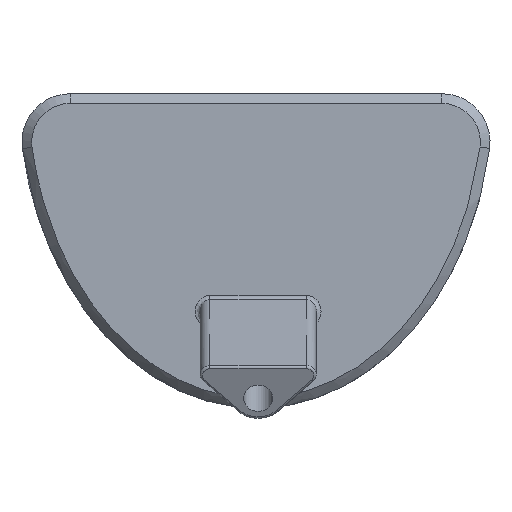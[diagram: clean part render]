
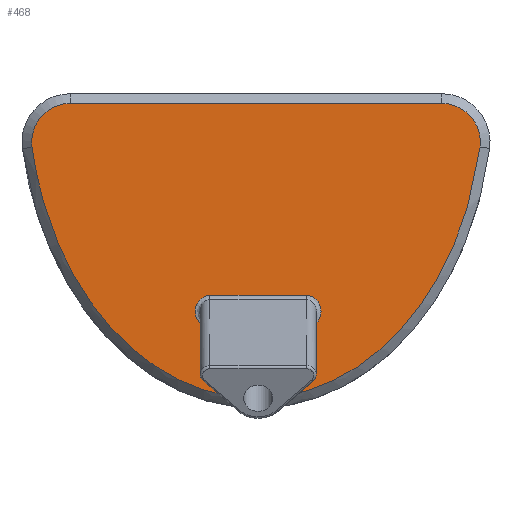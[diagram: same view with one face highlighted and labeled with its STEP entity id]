
A CAD part, front view. The second image highlights one B-rep face of the part: STEP entity #468.
In plain terms, the highlighted planar face has unit normal (0, -1, 0).
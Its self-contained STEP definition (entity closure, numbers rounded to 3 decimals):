
#19=FACE_BOUND('',#118,.T.);
#23=ELLIPSE('',#519,7.724,7.);
#24=ELLIPSE('',#520,3.31,3.);
#25=ELLIPSE('',#521,3.31,3.);
#45=B_SPLINE_CURVE_WITH_KNOTS('',3,(#796,#797,#798,#799,#800,#801,#802,
#803,#804,#805),.UNSPECIFIED.,.F.,.F.,(4,1,1,1,1,1,1,4),(-1.391,
-0.992,-0.593,-0.194,0.204,
0.603,1.002,1.401),.UNSPECIFIED.);
#51=CIRCLE('',#511,8.);
#53=CIRCLE('',#514,8.);
#85=FACE_OUTER_BOUND('',#117,.T.);
#117=EDGE_LOOP('',(#341,#342,#343,#344));
#118=EDGE_LOOP('',(#345,#346,#347,#348,#349,#350));
#150=LINE('',#736,#181);
#157=LINE('',#824,#188);
#158=LINE('',#828,#189);
#159=LINE('',#831,#190);
#181=VECTOR('',#577,10.);
#188=VECTOR('',#606,10.);
#189=VECTOR('',#609,10.);
#190=VECTOR('',#612,10.);
#209=VERTEX_POINT('',#729);
#212=VERTEX_POINT('',#734);
#213=VERTEX_POINT('',#738);
#215=VERTEX_POINT('',#783);
#220=VERTEX_POINT('',#820);
#221=VERTEX_POINT('',#821);
#222=VERTEX_POINT('',#823);
#223=VERTEX_POINT('',#825);
#224=VERTEX_POINT('',#827);
#225=VERTEX_POINT('',#829);
#252=EDGE_CURVE('',#212,#209,#150,.T.);
#255=EDGE_CURVE('',#209,#213,#51,.T.);
#258=EDGE_CURVE('',#213,#215,#45,.T.);
#260=EDGE_CURVE('',#215,#212,#53,.T.);
#266=EDGE_CURVE('',#220,#221,#23,.T.);
#267=EDGE_CURVE('',#222,#220,#157,.T.);
#268=EDGE_CURVE('',#223,#222,#24,.T.);
#269=EDGE_CURVE('',#224,#223,#158,.T.);
#270=EDGE_CURVE('',#225,#224,#25,.T.);
#271=EDGE_CURVE('',#221,#225,#159,.T.);
#341=ORIENTED_EDGE('',*,*,#252,.F.);
#342=ORIENTED_EDGE('',*,*,#260,.F.);
#343=ORIENTED_EDGE('',*,*,#258,.F.);
#344=ORIENTED_EDGE('',*,*,#255,.F.);
#345=ORIENTED_EDGE('',*,*,#266,.F.);
#346=ORIENTED_EDGE('',*,*,#267,.F.);
#347=ORIENTED_EDGE('',*,*,#268,.F.);
#348=ORIENTED_EDGE('',*,*,#269,.F.);
#349=ORIENTED_EDGE('',*,*,#270,.F.);
#350=ORIENTED_EDGE('',*,*,#271,.F.);
#455=PLANE('',#518);
#468=ADVANCED_FACE('',(#85,#19),#455,.F.);
#511=AXIS2_PLACEMENT_3D('',#742,#583,#584);
#514=AXIS2_PLACEMENT_3D('',#808,#590,#591);
#518=AXIS2_PLACEMENT_3D('',#819,#602,#603);
#519=AXIS2_PLACEMENT_3D('',#822,#604,#605);
#520=AXIS2_PLACEMENT_3D('',#826,#607,#608);
#521=AXIS2_PLACEMENT_3D('',#830,#610,#611);
#577=DIRECTION('',(1.,0.,0.));
#583=DIRECTION('center_axis',(0.,1.,0.));
#584=DIRECTION('ref_axis',(0.751,0.,0.66));
#590=DIRECTION('center_axis',(0.,1.,0.));
#591=DIRECTION('ref_axis',(-0.754,0.,0.657));
#602=DIRECTION('center_axis',(0.,1.,0.));
#603=DIRECTION('ref_axis',(1.,0.,0.));
#604=DIRECTION('center_axis',(0.,-1.,0.));
#605=DIRECTION('ref_axis',(0.,0.,-1.));
#606=DIRECTION('',(0.689,0.,-0.724));
#607=DIRECTION('center_axis',(0.,-1.,0.));
#608=DIRECTION('ref_axis',(0.,0.,1.));
#609=DIRECTION('',(-1.,0.,0.));
#610=DIRECTION('center_axis',(0.,-1.,0.));
#611=DIRECTION('ref_axis',(0.,0.,1.));
#612=DIRECTION('',(0.689,0.,0.724));
#729=CARTESIAN_POINT('',(37.954,0.,63.));
#734=CARTESIAN_POINT('',(-38.839,0.,63.));
#736=CARTESIAN_POINT('',(-25.008,0.,63.));
#738=CARTESIAN_POINT('',(45.887,0.,53.969));
#742=CARTESIAN_POINT('Origin',(37.954,0.,55.));
#783=CARTESIAN_POINT('',(-46.765,0.,53.913));
#796=CARTESIAN_POINT('Ctrl Pts',(45.887,0.,53.969));
#797=CARTESIAN_POINT('Ctrl Pts',(44.808,0.,45.662));
#798=CARTESIAN_POINT('Ctrl Pts',(40.115,0.,29.665));
#799=CARTESIAN_POINT('Ctrl Pts',(26.676,0.,11.356));
#800=CARTESIAN_POINT('Ctrl Pts',(9.166,0.,1.603));
#801=CARTESIAN_POINT('Ctrl Pts',(-9.657,0.,1.582));
#802=CARTESIAN_POINT('Ctrl Pts',(-27.243,0.,11.327));
#803=CARTESIAN_POINT('Ctrl Pts',(-40.821,0.,29.611));
#804=CARTESIAN_POINT('Ctrl Pts',(-45.626,0.,45.607));
#805=CARTESIAN_POINT('Ctrl Pts',(-46.765,0.,53.913));
#808=CARTESIAN_POINT('Origin',(-38.839,0.,55.));
#819=CARTESIAN_POINT('Origin',(-0.478,0.,32.499));
#820=CARTESIAN_POINT('',(-4.828,0.,9.983));
#821=CARTESIAN_POINT('',(4.828,0.,9.983));
#822=CARTESIAN_POINT('Origin',(0.,0.,15.576));
#823=CARTESIAN_POINT('',(-12.069,0.,17.592));
#824=CARTESIAN_POINT('',(-6.559,0.,11.802));
#825=CARTESIAN_POINT('',(-10.,0.,23.299));
#826=CARTESIAN_POINT('Origin',(-10.,0.,19.989));
#827=CARTESIAN_POINT('',(10.,0.,23.299));
#828=CARTESIAN_POINT('',(-5.239,0.,23.299));
#829=CARTESIAN_POINT('',(12.069,0.,17.592));
#830=CARTESIAN_POINT('Origin',(10.,0.,19.989));
#831=CARTESIAN_POINT('',(9.613,0.,15.011));
